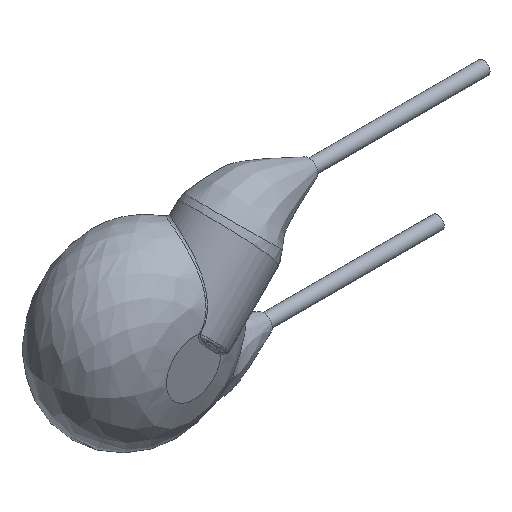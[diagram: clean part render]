
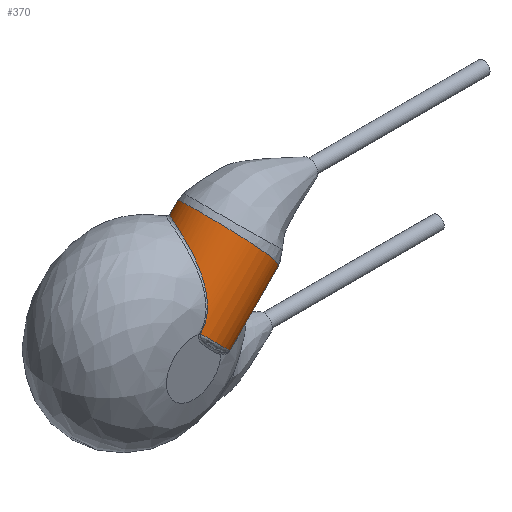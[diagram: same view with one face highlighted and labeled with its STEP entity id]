
A CAD part, isometric view. The second image highlights one B-rep face of the part: STEP entity #370.
In plain terms, the highlighted cylindrical face has radius 1.95 mm (diameter 3.9 mm), a full revolution.
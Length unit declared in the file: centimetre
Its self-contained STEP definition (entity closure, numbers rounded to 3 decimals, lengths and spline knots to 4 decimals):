
#19=CYLINDRICAL_SURFACE('',#402,0.195);
#31=B_SPLINE_CURVE_WITH_KNOTS('',3,(#843,#844,#845,#846,#847,#848,#849,
#850,#851,#852,#853,#854,#855,#856,#857,#858,#859,#860,#861,#862,#863,#864,
#865),.UNSPECIFIED.,.F.,.F.,(4,2,3,2,2,2,2,2,2,2,4),(-0.022,
-0.0183,0.,0.0187,0.0487,0.0868,
0.1301,0.1795,0.232,0.2884,
0.3031),.UNSPECIFIED.);
#32=B_SPLINE_CURVE_WITH_KNOTS('',3,(#866,#867,#868,#869,#870,#871,#872,
#873,#874,#875,#876,#877,#878,#879,#880,#881,#882,#883,#884),
 .UNSPECIFIED.,.F.,.F.,(4,2,2,2,2,2,3,2,4),(-0.3031,-0.2832,
-0.2282,-0.1991,-0.1501,-0.109,
-0.0783,-0.0476,-0.022),
 .UNSPECIFIED.);
#33=B_SPLINE_CURVE_WITH_KNOTS('',3,(#888,#889,#890,#891,#892,#893,#894,
#895,#896,#897,#898,#899,#900,#901,#902,#903),.UNSPECIFIED.,.F.,.F.,(4,
1,1,1,1,1,1,1,1,1,1,1,1,4),(0.,0.0467,0.0933,0.1867,
0.3733,0.4667,0.56,0.6534,
0.7467,0.84,0.9334,1.12,1.2134,
1.3067),.UNSPECIFIED.);
#65=FACE_BOUND('',#102,.T.);
#73=FACE_OUTER_BOUND('',#101,.T.);
#101=EDGE_LOOP('',(#253,#254));
#102=EDGE_LOOP('',(#255,#256));
#131=CIRCLE('',#403,0.195);
#157=VERTEX_POINT('',#790);
#161=VERTEX_POINT('',#842);
#162=VERTEX_POINT('',#886);
#163=VERTEX_POINT('',#887);
#196=EDGE_CURVE('',#157,#161,#31,.T.);
#197=EDGE_CURVE('',#161,#157,#32,.T.);
#198=EDGE_CURVE('',#162,#163,#33,.T.);
#199=EDGE_CURVE('',#163,#162,#131,.T.);
#253=ORIENTED_EDGE('',*,*,#198,.F.);
#254=ORIENTED_EDGE('',*,*,#199,.F.);
#255=ORIENTED_EDGE('',*,*,#196,.F.);
#256=ORIENTED_EDGE('',*,*,#197,.F.);
#370=ADVANCED_FACE('',(#73,#65),#19,.T.);
#402=AXIS2_PLACEMENT_3D('',#885,#448,#449);
#403=AXIS2_PLACEMENT_3D('',#904,#450,#451);
#448=DIRECTION('center_axis',(-0.707,0.,-0.707));
#449=DIRECTION('ref_axis',(-0.707,0.,0.707));
#450=DIRECTION('center_axis',(-0.707,0.,-0.707));
#451=DIRECTION('ref_axis',(0.005,-1.,-0.005));
#790=CARTESIAN_POINT('',(0.3401,0.1643,0.2763));
#842=CARTESIAN_POINT('',(0.3532,-0.2213,0.2597));
#843=CARTESIAN_POINT('Ctrl Pts',(0.3401,0.1643,0.2763));
#844=CARTESIAN_POINT('Ctrl Pts',(0.3385,0.1645,0.2783));
#845=CARTESIAN_POINT('Ctrl Pts',(0.337,0.1647,0.2802));
#846=CARTESIAN_POINT('Ctrl Pts',(0.3275,0.1654,0.2918));
#847=CARTESIAN_POINT('Ctrl Pts',(0.3195,0.1648,0.3014));
#848=CARTESIAN_POINT('Ctrl Pts',(0.3115,0.163,0.3107));
#849=CARTESIAN_POINT('Ctrl Pts',(0.3033,0.1612,0.3203));
#850=CARTESIAN_POINT('Ctrl Pts',(0.2951,0.1582,0.3297));
#851=CARTESIAN_POINT('Ctrl Pts',(0.2743,0.1471,0.3534));
#852=CARTESIAN_POINT('Ctrl Pts',(0.2621,0.1372,0.3669));
#853=CARTESIAN_POINT('Ctrl Pts',(0.2371,0.1087,0.3945));
#854=CARTESIAN_POINT('Ctrl Pts',(0.2253,0.0885,0.4074));
#855=CARTESIAN_POINT('Ctrl Pts',(0.2066,0.0396,0.4276));
#856=CARTESIAN_POINT('Ctrl Pts',(0.2008,0.0104,0.4338));
#857=CARTESIAN_POINT('Ctrl Pts',(0.1984,-0.0535,
0.4364));
#858=CARTESIAN_POINT('Ctrl Pts',(0.2034,-0.088,0.431));
#859=CARTESIAN_POINT('Ctrl Pts',(0.2249,-0.1504,0.4078));
#860=CARTESIAN_POINT('Ctrl Pts',(0.2421,-0.1778,0.3891));
#861=CARTESIAN_POINT('Ctrl Pts',(0.2849,-0.2167,0.3416));
#862=CARTESIAN_POINT('Ctrl Pts',(0.3108,-0.2265,0.3122));
#863=CARTESIAN_POINT('Ctrl Pts',(0.3412,-0.2244,0.2751));
#864=CARTESIAN_POINT('Ctrl Pts',(0.3473,-0.2232,0.2674));
#865=CARTESIAN_POINT('Ctrl Pts',(0.3532,-0.2213,0.2597));
#866=CARTESIAN_POINT('Ctrl Pts',(0.3532,-0.2213,0.2597));
#867=CARTESIAN_POINT('Ctrl Pts',(0.3613,-0.2187,0.2494));
#868=CARTESIAN_POINT('Ctrl Pts',(0.3689,-0.2148,0.2391));
#869=CARTESIAN_POINT('Ctrl Pts',(0.3953,-0.1959,0.2018));
#870=CARTESIAN_POINT('Ctrl Pts',(0.4101,-0.1735,0.1765));
#871=CARTESIAN_POINT('Ctrl Pts',(0.4266,-0.1289,0.1474));
#872=CARTESIAN_POINT('Ctrl Pts',(0.4311,-0.1116,0.1391));
#873=CARTESIAN_POINT('Ctrl Pts',(0.4397,-0.0617,
0.1236));
#874=CARTESIAN_POINT('Ctrl Pts',(0.441,-0.0266,
0.1213));
#875=CARTESIAN_POINT('Ctrl Pts',(0.4352,0.0341,0.1317));
#876=CARTESIAN_POINT('Ctrl Pts',(0.4296,0.06,0.142));
#877=CARTESIAN_POINT('Ctrl Pts',(0.4159,0.0983,0.1663));
#878=CARTESIAN_POINT('Ctrl Pts',(0.4088,0.1127,0.1787));
#879=CARTESIAN_POINT('Ctrl Pts',(0.4004,0.1246,0.1923));
#880=CARTESIAN_POINT('Ctrl Pts',(0.3919,0.1366,0.2059));
#881=CARTESIAN_POINT('Ctrl Pts',(0.382,0.1464,0.221));
#882=CARTESIAN_POINT('Ctrl Pts',(0.3612,0.1591,0.2496));
#883=CARTESIAN_POINT('Ctrl Pts',(0.3509,0.1628,0.2629));
#884=CARTESIAN_POINT('Ctrl Pts',(0.3401,0.1643,0.2763));
#885=CARTESIAN_POINT('Origin',(0.3414,-0.03,0.3014));
#886=CARTESIAN_POINT('',(0.0299,-0.2012,0.122));
#887=CARTESIAN_POINT('',(0.1663,-0.1977,-0.0144));
#888=CARTESIAN_POINT('Ctrl Pts',(0.0299,-0.2012,
0.122));
#889=CARTESIAN_POINT('Ctrl Pts',(0.0408,-0.2011,0.1331));
#890=CARTESIAN_POINT('Ctrl Pts',(0.0597,-0.1989,0.1581));
#891=CARTESIAN_POINT('Ctrl Pts',(0.083,-0.1843,
0.214));
#892=CARTESIAN_POINT('Ctrl Pts',(0.1012,-0.1364,0.3085));
#893=CARTESIAN_POINT('Ctrl Pts',(0.1221,-0.0303,0.3786));
#894=CARTESIAN_POINT('Ctrl Pts',(0.1744,0.0808,0.3727));
#895=CARTESIAN_POINT('Ctrl Pts',(0.2267,0.1435,0.3325));
#896=CARTESIAN_POINT('Ctrl Pts',(0.2865,0.1712,0.2693));
#897=CARTESIAN_POINT('Ctrl Pts',(0.3439,0.1578,0.1996));
#898=CARTESIAN_POINT('Ctrl Pts',(0.3851,0.1072,0.1362));
#899=CARTESIAN_POINT('Ctrl Pts',(0.4019,0.0055,
0.0697));
#900=CARTESIAN_POINT('Ctrl Pts',(0.3487,-0.1071,0.0388));
#901=CARTESIAN_POINT('Ctrl Pts',(0.2494,-0.1768,0.022));
#902=CARTESIAN_POINT('Ctrl Pts',(0.1921,-0.1939,0.0024));
#903=CARTESIAN_POINT('Ctrl Pts',(0.1663,-0.1977,-0.0144));
#904=CARTESIAN_POINT('Origin',(0.0959,-0.03,0.0559));
